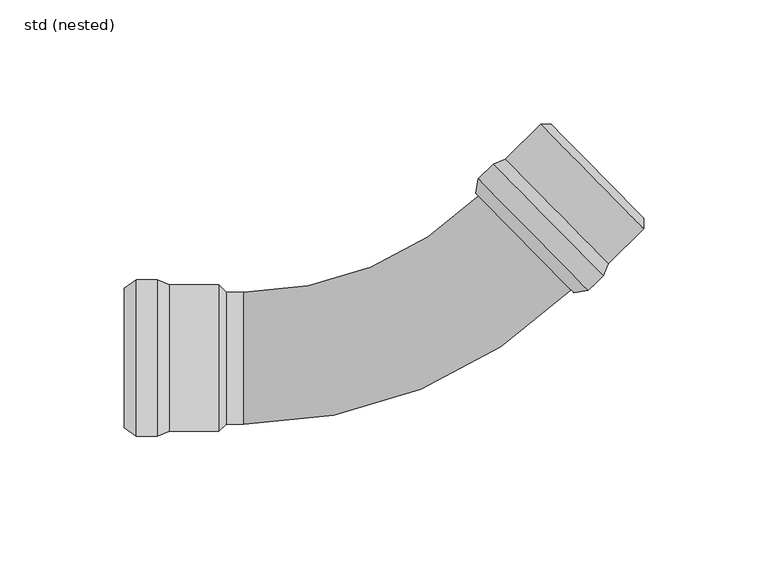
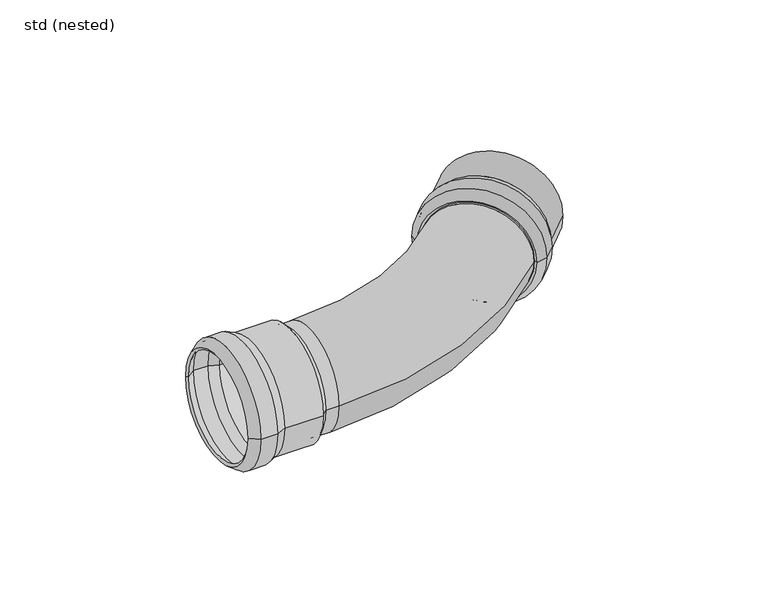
"""IFC4 building model written with IfcOpenShell, lengths in millimetres: pipe fitting geometry, ZZZ_do not use_PIF_ST_UN_GM-X pipe bend_ACO : std (nested)."""

import ifcopenshell
import ifcopenshell.guid

model = None  # the IFC model being written
_history = None  # IfcOwnerHistory: only IFC2X3 demands one
_inside = {}  # id of a spatial element -> (the spatial element, [elements in it])
_under = {}  # id of a project, library or spatial element -> (it, [spatial elements below it])
_declared = {}  # id of a project -> (the project, [libraries it declares])
_typed = {}  # id of a type object -> (the type object, [elements of that type])
_made_of = {}  # id of a material, layer set ... -> (it, [elements and type objects made of it])


def new_model(schema):
    """Start an empty IFC model of exactly this schema.

    Asked for "IFC4X3", IfcOpenShell would pick the latest addendum, in which some entities
    have other attributes; the version numbers below select the first issue.
    IFC2X3 requires an IfcOwnerHistory on every rooted entity: one is made here for all.
    """
    global model, _history
    if schema == "IFC4X3":
        model = ifcopenshell.file(schema_version=(4, 3, 0, 0))
    else:
        model = ifcopenshell.file(schema=schema)
    _inside.clear()
    _under.clear()
    _declared.clear()
    _typed.clear()
    _made_of.clear()
    _history = None
    if model.schema == "IFC2X3":
        org = make("IfcOrganization", Name="unknown")
        user = make(
            "IfcPersonAndOrganization",
            ThePerson=make("IfcPerson", FamilyName="unknown"),
            TheOrganization=org,
        )
        app = make(
            "IfcApplication",
            ApplicationDeveloper=org,
            Version="unknown",
            ApplicationFullName="unknown",
            ApplicationIdentifier="unknown",
        )
        _history = make(
            "IfcOwnerHistory",
            OwningUser=user,
            OwningApplication=app,
            ChangeAction="ADDED",
            CreationDate=0,
        )
    return model


def make(cls, **values):
    """One entity of the class cls with the attributes given. An attribute that is None is left unset."""
    return model.create_entity(
        cls, **{name: value for name, value in values.items() if value is not None}
    )


def rooted(cls, **values):
    """An entity with a GlobalId (a new one), such as an element, a storey or a relation."""
    return make(cls, GlobalId=ifcopenshell.guid.new(), OwnerHistory=_history, **values)


def si_unit(unit_type, name, prefix=None):
    """IfcSIUnit, for example si_unit("LENGTHUNIT", "METRE", prefix="MILLI")."""
    return make("IfcSIUnit", UnitType=unit_type, Prefix=prefix, Name=name)


def assignment(units):
    """IfcUnitAssignment: the units of a project."""
    return None if units is None else make("IfcUnitAssignment", Units=units)


def point(xyz):
    """IfcCartesianPoint."""
    return None if xyz is None else make("IfcCartesianPoint", Coordinates=xyz)


def direction(xyz):
    """IfcDirection."""
    return None if xyz is None else make("IfcDirection", DirectionRatios=xyz)


def frame(location, z_axis=None, x_axis=None):
    """IfcAxis2Placement3D, a coordinate frame: its origin and axes. An axis left out is left unset."""
    return make(
        "IfcAxis2Placement3D",
        Location=point(location),
        Axis=direction(z_axis),
        RefDirection=direction(x_axis),
    )


def origin():
    """The frame at (0, 0, 0) with its axes left unset."""
    return frame((0.0, 0.0, 0.0))


def place(relative_to, where):
    """IfcLocalPlacement: puts the frame where relative to a parent placement (None: the world)."""
    return make(
        "IfcLocalPlacement", PlacementRelTo=relative_to, RelativePlacement=where
    )


def context(
    kind, dimensions, precision=None, world=None, true_north=None, identifier=None
):
    """IfcGeometricRepresentationContext, for example the 3D "Model" context."""
    return make(
        "IfcGeometricRepresentationContext",
        ContextIdentifier=identifier,
        ContextType=kind,
        CoordinateSpaceDimension=dimensions,
        Precision=precision,
        WorldCoordinateSystem=world,
        TrueNorth=true_north,
    )


def project(units=None, contexts=None):
    """IfcProject with its units and contexts."""
    return rooted(
        "IfcProject",
        Name="project",
        RepresentationContexts=contexts,
        UnitsInContext=assignment(units),
    )


def spatial(cls, under=None, at=None, **own):
    """A site, building, storey or space (cls), placed at a placement, below another one or the project."""
    s = rooted(cls, ObjectPlacement=at, **own)
    if under is not None:
        _under.setdefault(under.id(), (under, []))[1].append(s)
    return s


def polyline(points):
    """IfcPolyline through the points."""
    return make("IfcPolyline", Points=[point(p) for p in points])


def circle_curve(where, radius):
    """IfcCircle in the frame where."""
    return make("IfcCircle", Position=where, Radius=radius)


def ellipse_curve(where, semi_axis1, semi_axis2):
    """IfcEllipse in the frame where."""
    return make(
        "IfcEllipse", Position=where, SemiAxis1=semi_axis1, SemiAxis2=semi_axis2
    )


def trimmed(basis, trim1, trim2, sense, master):
    """IfcTrimmedCurve: the piece of a basis curve between two trims."""
    return make(
        "IfcTrimmedCurve",
        BasisCurve=basis,
        Trim1=trim1,
        Trim2=trim2,
        SenseAgreement=sense,
        MasterRepresentation=master,
    )


def shape(context_of_items, identifier, shape_type, items):
    """IfcShapeRepresentation: the items that make up one representation, for example the "Body"."""
    return make(
        "IfcShapeRepresentation",
        ContextOfItems=context_of_items,
        RepresentationIdentifier=identifier,
        RepresentationType=shape_type,
        Items=items,
    )


def source(mapping_origin, context_of_items, identifier, shape_type, items):
    """IfcRepresentationMap: a shape defined once, which mapped items show again and again."""
    return make(
        "IfcRepresentationMap",
        MappingOrigin=mapping_origin,
        MappedRepresentation=shape(context_of_items, identifier, shape_type, items),
    )


def transform(
    local_origin,
    x_axis=None,
    y_axis=None,
    z_axis=None,
    scale=None,
    scale2=None,
    scale3=None,
    uniform=True,
):
    """IfcCartesianTransformationOperator3D, or its non-uniform kind. x_axis, y_axis, z_axis: its Axis1, 2, 3."""
    if uniform:
        return make(
            "IfcCartesianTransformationOperator3D",
            Axis1=direction(x_axis),
            Axis2=direction(y_axis),
            LocalOrigin=point(local_origin),
            Scale=scale,
            Axis3=direction(z_axis),
        )
    return make(
        "IfcCartesianTransformationOperator3DnonUniform",
        Axis1=direction(x_axis),
        Axis2=direction(y_axis),
        LocalOrigin=point(local_origin),
        Scale=scale,
        Axis3=direction(z_axis),
        Scale2=scale2,
        Scale3=scale3,
    )


def mapped(mapping_source, mapping_target):
    """IfcMappedItem: shows the shape of a source again, moved by a transform."""
    return make(
        "IfcMappedItem", MappingSource=mapping_source, MappingTarget=mapping_target
    )


def made_of(thing, what):
    """Note that an element or type object is made of a material, layer set ...; save() writes the relation."""
    if what is not None:
        _made_of.setdefault(what.id(), (what, []))[1].append(thing)
    return thing


def element(
    cls,
    number,
    at=None,
    inside=None,
    cuts=None,
    type_object=None,
    material=None,
    context=None,
    identifier="Body",
    shape_type=None,
    held_by="IfcProductDefinitionShape",
    body=None,
    shapes=None,
    **own,
):
    """One element of the class cls, such as IfcWall. Its Tag is "e" and its number.

    at: its placement. inside: the storey or other place that contains it. cuts: it is an
    opening in that element (IfcRelVoidsElement). A single representation is given by context,
    identifier, shape_type and body (its items); several are given by shapes. held_by: the class
    of the entity that holds the representations. save() writes the other relations.
    """
    e = rooted(cls, Tag="e%d" % number, ObjectPlacement=at, **own)
    if body is not None:
        shapes = [shape(context, identifier, shape_type, body)]
    if shapes is not None:
        e.Representation = make(held_by, Representations=shapes)
    if inside is not None:
        _inside.setdefault(inside.id(), (inside, []))[1].append(e)
    if cuts is not None:
        rooted(
            "IfcRelVoidsElement", RelatingBuildingElement=cuts, RelatedOpeningElement=e
        )
    if type_object is not None:
        _typed.setdefault(type_object.id(), (type_object, []))[1].append(e)
    return made_of(e, material)


def aggregate(whole, parts):
    """IfcRelAggregates: a whole, such as a stair, and the parts it consists of."""
    return rooted("IfcRelAggregates", RelatingObject=whole, RelatedObjects=parts)


def save(model, path):
    """Write the relations noted so far, then the file.

    IfcRelAggregates (storeys below a building ...), IfcRelContainedInSpatialStructure (elements
    in a storey), IfcRelDefinesByType, IfcRelAssociatesMaterial and IfcRelDeclares: one each for
    every whole, place, type object, material and project.
    """
    for whole, parts in _under.values():
        aggregate(whole, parts)
    for where, things in _inside.values():
        rooted(
            "IfcRelContainedInSpatialStructure",
            RelatedElements=things,
            RelatingStructure=where,
        )
    for kind, things in _typed.values():
        rooted("IfcRelDefinesByType", RelatedObjects=things, RelatingType=kind)
    for what, things in _made_of.values():
        rooted("IfcRelAssociatesMaterial", RelatedObjects=things, RelatingMaterial=what)
    for by, libraries in _declared.values():
        rooted("IfcRelDeclares", RelatingContext=by, RelatedDefinitions=libraries)
    model.write(path)


def plane_surface(at):
    """IfcPlane: the flat surface through the origin of the frame at, square to its z axis."""
    return make("IfcPlane", Position=at)


def cylinder_surface(at, radius):
    """IfcCylindricalSurface: all points at the distance radius from the z axis of the frame at."""
    return make("IfcCylindricalSurface", Position=at, Radius=radius)


def revolved_surface(curve, axis_point, axis_direction):
    """IfcSurfaceOfRevolution: the curve turned about the line through axis_point along axis_direction."""
    return make(
        "IfcSurfaceOfRevolution",
        SweptCurve=make("IfcArbitraryOpenProfileDef", ProfileType="CURVE", Curve=curve),
        AxisPosition=make("IfcAxis1Placement", Location=point(axis_point), Axis=direction(axis_direction)),
    )


def advanced_brep(points, edges, surfaces, faces):
    """IfcAdvancedBrep: a solid bounded by faces that lie on surfaces and meet in shared edges.

    An edge is (start, end): straight between two places in points (the first is 0);
    or (start, end, curve); or (start, end, curve, False) where it runs against its curve.
    A face is (place in surfaces, loops), or (place, loops, False) where it looks against
    its surface's normal. A loop lists edges by number (the first is 1), with a minus sign
    where the edge is run from its end to its start. The first loop is the outer one.
    """
    corners = [point(p) for p in points]
    vertices = [make("IfcVertexPoint", VertexGeometry=c) for c in corners]
    made = []
    for start, end, *more in edges:
        made.append(
            make(
                "IfcEdgeCurve",
                EdgeStart=vertices[start],
                EdgeEnd=vertices[end],
                EdgeGeometry=more[0] if more else make("IfcPolyline", Points=[corners[start], corners[end]]),
                SameSense=more[1] if len(more) > 1 else True,
            )
        )
    hull = []
    for where, loops, *sense in faces:
        bounds = []
        for j, loop in enumerate(loops):
            ring = [make("IfcOrientedEdge", EdgeElement=made[abs(k) - 1], Orientation=k > 0) for k in loop]
            bounds.append(
                make(
                    "IfcFaceOuterBound" if j == 0 else "IfcFaceBound",
                    Bound=make("IfcEdgeLoop", EdgeList=ring),
                    Orientation=True,
                )
            )
        hull.append(make("IfcAdvancedFace", Bounds=bounds, FaceSurface=surfaces[where], SameSense=sense[0] if sense else True))
    return make("IfcAdvancedBrep", Outer=make("IfcClosedShell", CfsFaces=hull))


def std_nested_f38542de(model_context):
    return source(origin(), model_context, "Body", "AdvancedBrep", [
        advanced_brep(
        [(34.3147889, 78.0216974, 0.0), (78.5273458, 33.1413029, 0.0), (72.5432932, 27.2462953, 0.0), (28.3307363, 72.1266898, 0.0), (39.1378208, 79.9654987, 0.0), (80.5432312, 37.9346531, 0.0), (66.6675814, 26.3710748, 0.0), (27.3675309, 66.2647588, 0.0), (53.3855651, 94.0012311, 0.0), (94.7909755, 51.9703854, 0.0), (57.6280866, 93.9694293, 0.0), (94.8227773, 56.2129069, 0.0), (55.4909249, 91.8640694, 0.0), (92.6856157, 54.107547, 0.0), (39.9767846, 78.6863819, 0.0), (79.2768351, 38.7926979, 0.0), (93.7382956, 53.0389662, 0.0), (54.438245, 92.9326502, 0.0), (35.1537527, 76.7425806, 0.0), (77.2609498, 33.9993477, 0.0), (29.7316328, 71.4011439, 0.0), (71.8388298, 28.657911, 0.0), (28.8476822, 66.0215471, 0.0), (66.4465862, 27.8547058, 0.0)],
        [
            (0, 1, circle_curve(frame((56.4210674, 55.5815001, 0.0), z_axis=(-0.7123872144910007, -0.7017866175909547, 0.0), x_axis=(0.7017866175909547, -0.7123872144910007, 0.0)), 31.5)),
            (1, 2),
            (2, 3, circle_curve(frame((50.4370148, 49.6864925, 0.0), z_axis=(0.7123872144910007, 0.7017866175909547, 0.0), x_axis=(0.7017866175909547, -0.7123872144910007, 0.0)), 31.5)),
            (3, 0),
            (1, 0, circle_curve(frame((56.4210674, 55.5815001, 0.0), z_axis=(-0.7123872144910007, -0.7017866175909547, 0.0), x_axis=(0.7017866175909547, -0.7123872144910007, 0.0)), 31.5)),
            (3, 2, circle_curve(frame((50.4370148, 49.6864925, 0.0), z_axis=(0.7123872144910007, 0.7017866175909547, 0.0), x_axis=(0.7017866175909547, -0.7123872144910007, 0.0)), 31.5)),
            (4, 5, circle_curve(frame((59.840526, 58.9500759, 0.0), z_axis=(-0.7123872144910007, -0.7017866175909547, 0.0), x_axis=(0.7017866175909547, -0.7123872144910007, 0.0)), 29.5)),
            (5, 1),
            (0, 4),
            (5, 4, circle_curve(frame((59.840526, 58.9500759, 0.0), z_axis=(-0.7123872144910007, -0.7017866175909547, 0.0), x_axis=(0.7017866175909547, -0.7123872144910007, 0.0)), 29.5)),
            (2, 6),
            (6, 7, circle_curve(frame((47.0175562, 46.3179168, 0.0), z_axis=(0.7123872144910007, 0.7017866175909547, 0.0), x_axis=(0.7017866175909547, -0.7123872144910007, 0.0)), 28.0)),
            (7, 3),
            (7, 6, circle_curve(frame((47.0175562, 46.3179168, 0.0), z_axis=(0.7123872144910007, 0.7017866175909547, 0.0), x_axis=(0.7017866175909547, -0.7123872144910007, 0.0)), 28.0)),
            (8, 9, circle_curve(frame((74.0882703, 72.9858082, 0.0), z_axis=(-0.7123872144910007, -0.7017866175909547, 0.0), x_axis=(0.7017866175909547, -0.7123872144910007, 0.0)), 29.5)),
            (9, 5),
            (4, 8),
            (9, 8, circle_curve(frame((74.0882703, 72.9858082, 0.0), z_axis=(-0.7123872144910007, -0.7017866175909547, 0.0), x_axis=(0.7017866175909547, -0.7123872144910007, 0.0)), 29.5)),
            (10, 11, circle_curve(frame((76.225432, 75.0911681, 0.0), z_axis=(-0.7123872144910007, -0.7017866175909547, 0.0), x_axis=(0.7017866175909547, -0.7123872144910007, 0.0)), 26.5)),
            (11, 9),
            (8, 10),
            (11, 10, circle_curve(frame((76.225432, 75.0911681, 0.0), z_axis=(-0.7123872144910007, -0.7017866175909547, 0.0), x_axis=(0.7017866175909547, -0.7123872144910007, 0.0)), 26.5)),
            (12, 13, circle_curve(frame((74.0882703, 72.9858082, 0.0), z_axis=(-0.7123872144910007, -0.7017866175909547, 0.0), x_axis=(0.7017866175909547, -0.7123872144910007, 0.0)), 26.5)),
            (13, 11),
            (10, 12),
            (13, 12, circle_curve(frame((74.0882703, 72.9858082, 0.0), z_axis=(-0.7123872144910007, -0.7017866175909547, 0.0), x_axis=(0.7017866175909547, -0.7123872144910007, 0.0)), 26.5)),
            (14, 15, circle_curve(frame((59.6268099, 58.7395399, 0.0), z_axis=(-0.7123872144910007, -0.7017866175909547, 0.0), x_axis=(0.7017866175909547, -0.7123872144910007, 0.0)), 28.0)),
            (15, 16),
            (16, 17, circle_curve(frame((74.0882703, 72.9858082, 0.0), z_axis=(0.7123872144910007, 0.7017866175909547, 0.0), x_axis=(0.7017866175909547, -0.7123872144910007, 0.0)), 28.0)),
            (17, 14),
            (15, 14, circle_curve(frame((59.6268099, 58.7395399, 0.0), z_axis=(-0.7123872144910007, -0.7017866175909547, 0.0), x_axis=(0.7017866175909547, -0.7123872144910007, 0.0)), 28.0)),
            (17, 16, circle_curve(frame((74.0882703, 72.9858082, 0.0), z_axis=(0.7123872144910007, 0.7017866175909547, 0.0), x_axis=(0.7017866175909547, -0.7123872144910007, 0.0)), 28.0)),
            (18, 19, circle_curve(frame((56.2073512, 55.3709641, 0.0), z_axis=(-0.7123872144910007, -0.7017866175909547, 0.0), x_axis=(0.7017866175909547, -0.7123872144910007, 0.0)), 30.0)),
            (19, 15),
            (14, 18),
            (19, 18, circle_curve(frame((56.2073512, 55.3709641, 0.0), z_axis=(-0.7123872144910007, -0.7017866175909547, 0.0), x_axis=(0.7017866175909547, -0.7123872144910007, 0.0)), 30.0)),
            (20, 21, circle_curve(frame((50.7852313, 50.0295274, 0.0), z_axis=(-0.7123872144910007, -0.7017866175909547, 0.0), x_axis=(0.7017866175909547, -0.7123872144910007, 0.0)), 30.0)),
            (21, 19),
            (18, 20),
            (21, 20, circle_curve(frame((50.7852313, 50.0295274, 0.0), z_axis=(-0.7123872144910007, -0.7017866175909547, 0.0), x_axis=(0.7017866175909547, -0.7123872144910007, 0.0)), 30.0)),
            (22, 23, circle_curve(frame((47.6471342, 46.9381265, 0.0), z_axis=(-0.7123872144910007, -0.7017866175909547, 0.0), x_axis=(0.7017866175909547, -0.7123872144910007, 0.0)), 26.7879887)),
            (23, 21),
            (20, 22),
            (23, 22, circle_curve(frame((47.6471342, 46.9381265, 0.0), z_axis=(-0.7123872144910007, -0.7017866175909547, 0.0), x_axis=(0.7017866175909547, -0.7123872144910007, 0.0)), 26.7879887)),
            (6, 23),
            (22, 7),
            (16, 13),
            (12, 17),
        ],
        [
            cylinder_surface(frame((49.4080344, 48.6728237, 0.0), z_axis=(0.7123872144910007, 0.7017866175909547, 0.0), x_axis=(0.7017866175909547, -0.7123872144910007, 0.0)), 31.5),
            revolved_surface(polyline([(78.5273458, 33.1413029, 0.0), (80.5432312, 37.9346531, 0.0)]), (49.4080344, 48.6728237, 0.0), (0.7123872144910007, 0.7017866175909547, 0.0)),
            revolved_surface(polyline([(66.6675814, 26.3710748, 0.0), (72.5432932, 27.2462953, 0.0)]), (49.4080344, 48.6728237, 0.0), (0.7123872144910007, 0.7017866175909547, 0.0)),
            cylinder_surface(frame((49.4080344, 48.6728237, 0.0), z_axis=(0.7123872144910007, 0.7017866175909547, 0.0), x_axis=(0.7017866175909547, -0.7123872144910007, 0.0)), 29.5),
            revolved_surface(polyline([(94.7909755, 51.9703854, 0.0), (94.8227773, 56.2129069, 0.0)]), (49.4080344, 48.6728237, 0.0), (0.7123872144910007, 0.7017866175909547, 0.0)),
            revolved_surface(polyline([(94.82277738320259, 56.21290689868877, 0.0), (92.68561567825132, 54.10754698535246, 0.0)]), (49.4080344, 48.6728237, 0.0), (0.7123872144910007, 0.7017866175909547, 0.0)),
            revolved_surface(polyline([(93.73829562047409, 53.038966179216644, 0.0), (79.276835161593, 38.79269783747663, 0.0)]), (49.4080344, 48.6728237, 0.0), (0.7123872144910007, 0.7017866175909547, 0.0)),
            revolved_surface(polyline([(79.2768351, 38.7926979, 0.0), (77.2609498, 33.9993477, 0.0)]), (49.4080344, 48.6728237, 0.0), (0.7123872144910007, 0.7017866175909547, 0.0)),
            revolved_surface(polyline([(77.26094981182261, 33.99934768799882, 0.0), (71.8388298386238, 28.657910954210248, 0.0)]), (49.4080344, 48.6728237, 0.0), (0.7123872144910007, 0.7017866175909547, 0.0)),
            revolved_surface(polyline([(71.8388298, 28.657911, 0.0), (66.4465862, 27.8547058, 0.0)]), (49.4080344, 48.6728237, 0.0), (0.7123872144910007, 0.7017866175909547, 0.0)),
            revolved_surface(polyline([(66.4465862, 27.8547058, 0.0), (66.6675814, 26.3710748, 0.0)]), (49.4080344, 48.6728237, 0.0), (0.7123872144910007, 0.7017866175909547, 0.0)),
            plane_surface(frame((74.0882703, 72.9858082, 0.0), z_axis=(-0.7123872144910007, -0.7017866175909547, 0.0), x_axis=(0.7017866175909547, -0.7123872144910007, 0.0))),
        ],
        [
            (0, [[1, 2, 3, 4]]),
            (0, [[5, -4, 6, -2]]),
            (1, [[7, 8, -1, 9]]),
            (1, [[10, -9, -5, -8]]),
            (2, [[-3, 11, 12, 13]]),
            (2, [[-6, -13, 14, -11]]),
            (3, [[15, 16, -7, 17]]),
            (3, [[18, -17, -10, -16]]),
            (4, [[19, 20, -15, 21]]),
            (4, [[22, -21, -18, -20]]),
            (5, [[23, 24, -19, 25]]),
            (5, [[26, -25, -22, -24]]),
            (6, [[27, 28, 29, 30]]),
            (6, [[31, -30, 32, -28]]),
            (7, [[33, 34, -27, 35]]),
            (7, [[36, -35, -31, -34]]),
            (8, [[37, 38, -33, 39]]),
            (8, [[40, -39, -36, -38]]),
            (9, [[41, 42, -37, 43]]),
            (9, [[44, -43, -40, -42]]),
            (10, [[-12, 45, -41, 46]]),
            (10, [[-14, -46, -44, -45]]),
            (11, [[-29, 47, -23, 48]]),
            (11, [[-32, -48, -26, -47]]),
        ],
    ),
        advanced_brep(
        [(-100.8, 31.5, 0.0), (-100.8, -31.5, 0.0), (-109.2, -31.5, 0.0), (-109.2, 31.5, 0.0), (-96.0, 29.5, 0.0), (-96.0, -29.5, 0.0), (-114.0, -28.0, 0.0), (-114.0, 28.0, 0.0), (-76.0, 29.5, 0.0), (-76.0, -29.5, 0.0), (-73.0, 26.5, 0.0), (-73.0, -26.5, 0.0), (-76.0, 26.5, 0.0), (-76.0, -26.5, 0.0), (-96.3, 28.0, 0.0), (-96.3, -28.0, 0.0), (-76.0, -28.0, 0.0), (-76.0, 28.0, 0.0), (-101.1, 30.0, 0.0), (-101.1, -30.0, 0.0), (-108.7111977, 30.0, 0.0), (-108.7111977, -30.0, 0.0), (-113.1162418, 26.7879887, 0.0), (-113.1162418, -26.7879887, 0.0)],
        [
            (0, 1, circle_curve(frame((-100.8, 0.0, 0.0), z_axis=(-1.0, 0.0, 0.0), x_axis=(0.0, -1.0, 0.0)), 31.5)),
            (1, 2),
            (2, 3, circle_curve(frame((-109.2, 0.0, 0.0), z_axis=(1.0, 0.0, 0.0), x_axis=(0.0, -1.0, 0.0)), 31.5)),
            (3, 0),
            (1, 0, circle_curve(frame((-100.8, 0.0, 0.0), z_axis=(-1.0, 0.0, 0.0), x_axis=(0.0, -1.0, 0.0)), 31.5)),
            (3, 2, circle_curve(frame((-109.2, 0.0, 0.0), z_axis=(1.0, 0.0, 0.0), x_axis=(0.0, -1.0, 0.0)), 31.5)),
            (4, 5, circle_curve(frame((-96.0, 0.0, 0.0), z_axis=(-1.0, 0.0, 0.0), x_axis=(0.0, -1.0, 0.0)), 29.5)),
            (5, 1),
            (0, 4),
            (5, 4, circle_curve(frame((-96.0, 0.0, 0.0), z_axis=(-1.0, 0.0, 0.0), x_axis=(0.0, -1.0, 0.0)), 29.5)),
            (2, 6),
            (6, 7, circle_curve(frame((-114.0, 0.0, 0.0), z_axis=(1.0, 0.0, 0.0), x_axis=(0.0, -1.0, 0.0)), 28.0)),
            (7, 3),
            (7, 6, circle_curve(frame((-114.0, 0.0, 0.0), z_axis=(1.0, 0.0, 0.0), x_axis=(0.0, -1.0, 0.0)), 28.0)),
            (8, 9, circle_curve(frame((-76.0, 0.0, 0.0), z_axis=(-1.0, 0.0, 0.0), x_axis=(0.0, -1.0, 0.0)), 29.5)),
            (9, 5),
            (4, 8),
            (9, 8, circle_curve(frame((-76.0, 0.0, 0.0), z_axis=(-1.0, 0.0, 0.0), x_axis=(0.0, -1.0, 0.0)), 29.5)),
            (10, 11, circle_curve(frame((-73.0, 0.0, 0.0), z_axis=(-1.0, 0.0, 0.0), x_axis=(0.0, -1.0, 0.0)), 26.5)),
            (11, 9),
            (8, 10),
            (11, 10, circle_curve(frame((-73.0, 0.0, 0.0), z_axis=(-1.0, 0.0, 0.0), x_axis=(0.0, -1.0, 0.0)), 26.5)),
            (12, 13, circle_curve(frame((-76.0, 0.0, 0.0), z_axis=(-1.0, 0.0, 0.0), x_axis=(0.0, -1.0, 0.0)), 26.5)),
            (13, 11),
            (10, 12),
            (13, 12, circle_curve(frame((-76.0, 0.0, 0.0), z_axis=(-1.0, 0.0, 0.0), x_axis=(0.0, -1.0, 0.0)), 26.5)),
            (14, 15, circle_curve(frame((-96.3, 0.0, 0.0), z_axis=(-1.0, 0.0, 0.0), x_axis=(0.0, -1.0, 0.0)), 28.0)),
            (15, 16),
            (16, 17, circle_curve(frame((-76.0, 0.0, 0.0), z_axis=(1.0, 0.0, 0.0), x_axis=(0.0, -1.0, 0.0)), 28.0)),
            (17, 14),
            (15, 14, circle_curve(frame((-96.3, 0.0, 0.0), z_axis=(-1.0, 0.0, 0.0), x_axis=(0.0, -1.0, 0.0)), 28.0)),
            (17, 16, circle_curve(frame((-76.0, 0.0, 0.0), z_axis=(1.0, 0.0, 0.0), x_axis=(0.0, -1.0, 0.0)), 28.0)),
            (18, 19, circle_curve(frame((-101.1, 0.0, 0.0), z_axis=(-1.0, 0.0, 0.0), x_axis=(0.0, -1.0, 0.0)), 30.0)),
            (19, 15),
            (14, 18),
            (19, 18, circle_curve(frame((-101.1, 0.0, 0.0), z_axis=(-1.0, 0.0, 0.0), x_axis=(0.0, -1.0, 0.0)), 30.0)),
            (20, 21, circle_curve(frame((-108.7111977, 0.0, 0.0), z_axis=(-1.0, 0.0, 0.0), x_axis=(0.0, -1.0, 0.0)), 30.0)),
            (21, 19),
            (18, 20),
            (21, 20, circle_curve(frame((-108.7111977, 0.0, 0.0), z_axis=(-1.0, 0.0, 0.0), x_axis=(0.0, -1.0, 0.0)), 30.0)),
            (22, 23, circle_curve(frame((-113.1162418, 0.0, 0.0), z_axis=(-1.0, 0.0, 0.0), x_axis=(0.0, -1.0, 0.0)), 26.7879887)),
            (23, 21),
            (20, 22),
            (23, 22, circle_curve(frame((-113.1162418, 0.0, 0.0), z_axis=(-1.0, 0.0, 0.0), x_axis=(0.0, -1.0, 0.0)), 26.7879887)),
            (6, 23),
            (22, 7),
            (16, 13),
            (12, 17),
        ],
        [
            cylinder_surface(frame((-110.6444117, 0.0, 0.0), z_axis=(1.0, 0.0, 0.0), x_axis=(0.0, -1.0, 0.0)), 31.5),
            revolved_surface(polyline([(-100.8, -31.5, 0.0), (-96.0, -29.5, 0.0)]), (-110.6444117, 0.0, 0.0), (1.0, 0.0, 0.0)),
            revolved_surface(polyline([(-114.0, -28.0, 0.0), (-109.2, -31.5, 0.0)]), (-110.6444117, 0.0, 0.0), (1.0, 0.0, 0.0)),
            cylinder_surface(frame((-110.6444117, 0.0, 0.0), z_axis=(1.0, 0.0, 0.0), x_axis=(0.0, -1.0, 0.0)), 29.5),
            revolved_surface(polyline([(-76.0, -29.5, 0.0), (-73.0, -26.5, 0.0)]), (-110.6444117, 0.0, 0.0), (1.0, 0.0, 0.0)),
            revolved_surface(polyline([(-73.0, -26.5, 0.0), (-76.0, -26.5, 0.0)]), (-110.6444117, 0.0, 0.0), (1.0, 0.0, 0.0)),
            revolved_surface(polyline([(-76.0, -28.0, 0.0), (-96.3, -28.0, 0.0)]), (-110.6444117, 0.0, 0.0), (1.0, 0.0, 0.0)),
            revolved_surface(polyline([(-96.3, -28.0, 0.0), (-101.1, -30.0, 0.0)]), (-110.6444117, 0.0, 0.0), (1.0, 0.0, 0.0)),
            revolved_surface(polyline([(-101.1, -30.0, 0.0), (-108.7111977, -30.0, 0.0)]), (-110.6444117, 0.0, 0.0), (1.0, 0.0, 0.0)),
            revolved_surface(polyline([(-108.7111977, -30.0, 0.0), (-113.1162418, -26.7879887, 0.0)]), (-110.6444117, 0.0, 0.0), (1.0, 0.0, 0.0)),
            revolved_surface(polyline([(-113.1162418, -26.7879887, 0.0), (-114.0, -28.0, 0.0)]), (-110.6444117, 0.0, 0.0), (1.0, 0.0, 0.0)),
            plane_surface(frame((-76.0, 0.0, 0.0), z_axis=(-1.0, 0.0, 0.0), x_axis=(0.0, -1.0, 0.0))),
        ],
        [
            (0, [[1, 2, 3, 4]]),
            (0, [[5, -4, 6, -2]]),
            (1, [[7, 8, -1, 9]]),
            (1, [[10, -9, -5, -8]]),
            (2, [[-3, 11, 12, 13]]),
            (2, [[-6, -13, 14, -11]]),
            (3, [[15, 16, -7, 17]]),
            (3, [[18, -17, -10, -16]]),
            (4, [[19, 20, -15, 21]]),
            (4, [[22, -21, -18, -20]]),
            (5, [[23, 24, -19, 25]]),
            (5, [[26, -25, -22, -24]]),
            (6, [[27, 28, 29, 30]]),
            (6, [[31, -30, 32, -28]]),
            (7, [[33, 34, -27, 35]]),
            (7, [[36, -35, -31, -34]]),
            (8, [[37, 38, -33, 39]]),
            (8, [[40, -39, -36, -38]]),
            (9, [[41, 42, -37, 43]]),
            (9, [[44, -43, -40, -42]]),
            (10, [[-12, 45, -41, 46]]),
            (10, [[-14, -46, -44, -45]]),
            (11, [[-29, 47, -23, 48]]),
            (11, [[-32, -48, -26, -47]]),
        ],
    ),
        advanced_brep(
        [(28.4202108, 65.1961779, 0.0), (-66.0, 26.5, 0.0), (-66.0, -26.5, 0.0), (65.6149015, 27.4396556, 0.0), (47.0175562, 46.3179168, 26.5), (47.0175562, 46.3179168, -26.5), (-76.0, -26.5, 0.0), (-76.0, 26.5, 0.0), (92.6856157, 54.107547, 0.0), (55.4909249, 91.8640694, 0.0)],
        [
            (0, 1, circle_curve(frame((-66.0, 161.0426208, 0.0), z_axis=(0.0, 0.0, -1.0), x_axis=(0.0, -1.0, 0.0)), 134.5426208)),
            (1, 2, circle_curve(frame((-66.0, 0.0, 0.0), z_axis=(1.0, 0.0, 0.0), x_axis=(0.0, 1.0, 0.0)), 26.5)),
            (2, 3, circle_curve(frame((-66.0, 161.0426208, 0.0), z_axis=(0.0, 0.0, 1.0), x_axis=(0.0, -1.0, 0.0)), 187.5426208)),
            (3, 4, circle_curve(frame((47.0175562, 46.3179168, 0.0), z_axis=(-0.7123872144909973, -0.7017866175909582, 0.0), x_axis=(-0.7017866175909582, 0.7123872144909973, 0.0)), 26.5)),
            (4, 0, circle_curve(frame((47.0175562, 46.3179168, 0.0), z_axis=(-0.7123872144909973, -0.7017866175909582, 0.0), x_axis=(-0.7017866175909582, 0.7123872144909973, 0.0)), 26.5)),
            (0, 5, circle_curve(frame((47.0175562, 46.3179168, 0.0), z_axis=(-0.7123872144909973, -0.7017866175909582, 0.0), x_axis=(-0.7017866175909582, 0.7123872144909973, 0.0)), 26.5)),
            (5, 3, circle_curve(frame((47.0175562, 46.3179168, 0.0), z_axis=(-0.7123872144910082, -0.7017866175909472, 0.0), x_axis=(-0.7017866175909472, 0.7123872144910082, 0.0)), 26.5)),
            (2, 1, circle_curve(frame((-66.0, 0.0, 0.0), z_axis=(1.0, 0.0, 0.0), x_axis=(0.0, 1.0, 0.0)), 26.5)),
            (6, 7, circle_curve(frame((-76.0, 0.0, 0.0), z_axis=(-1.0, 0.0, 0.0), x_axis=(0.0, 1.0, 0.0)), 26.5)),
            (7, 6, circle_curve(frame((-76.0, 0.0, 0.0), z_axis=(-1.0, 0.0, 0.0), x_axis=(0.0, 1.0, 0.0)), 26.5)),
            (7, 1),
            (2, 6),
            (8, 9, circle_curve(frame((74.0882703, 72.9858082, 0.0), z_axis=(0.7123872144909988, 0.7017866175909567, 0.0), x_axis=(-0.7017866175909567, 0.7123872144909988, 0.0)), 26.5)),
            (9, 8, circle_curve(frame((74.0882703, 72.9858082, 0.0), z_axis=(0.7123872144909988, 0.7017866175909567, 0.0), x_axis=(-0.7017866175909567, 0.7123872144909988, 0.0)), 26.5)),
            (9, 0),
            (3, 8),
        ],
        [
            revolved_surface(trimmed(ellipse_curve(frame((-66.0, 0.0, 0.0), z_axis=(-1.0, 0.0, 0.0), x_axis=(0.0, 1.0, 0.0)), 26.5, 26.5), [point((-66.0, -26.5, 0.0))], [point((-66.0, 26.5, 0.0))], True, "CARTESIAN"), (-66.0, 161.0426208, 0.0), (0.0, 0.0, 1.0)),
            revolved_surface(trimmed(ellipse_curve(frame((-66.0, 0.0, 0.0), z_axis=(-1.0, 0.0, 0.0), x_axis=(0.0, 1.0, 0.0)), 26.5, 26.5), [point((-66.0, 26.5, 0.0))], [point((-66.0, -26.5, 0.0))], True, "CARTESIAN"), (-66.0, 161.0426208, 0.0), (0.0, 0.0, 1.0)),
            plane_surface(frame((-76.0, 26.5, 0.0), z_axis=(-1.0, 0.0, 0.0), x_axis=(0.0, 0.0, -1.0))),
            cylinder_surface(frame((-76.0, 0.0, 0.0), z_axis=(1.0, 0.0, 0.0), x_axis=(0.0, 1.0, 0.0)), 26.5),
            plane_surface(frame((74.0882703, 72.9858082, 0.0), z_axis=(0.7123872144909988, 0.7017866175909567, 0.0), x_axis=(0.0, 0.0, 1.0))),
            cylinder_surface(frame((47.0175562, 46.3179168, 0.0), z_axis=(-0.7123872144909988, -0.7017866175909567, 0.0), x_axis=(-0.7017866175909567, 0.7123872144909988, 0.0)), 26.5),
        ],
        [
            (0, [[1, 2, 3, 4, 5]]),
            (1, [[-1, 6, 7, -3, 8]]),
            (2, [[9, 10]]),
            (3, [[-10, 11, -8, 12]]),
            (3, [[-9, -12, -2, -11]]),
            (4, [[13, 14]]),
            (5, [[-14, 15, -5, -4, 16]]),
            (5, [[-13, -16, -7, -6, -15]]),
        ],
    ),
    ])


if __name__ == "__main__":
    model = new_model("IFC4")
    model_context = context("Model", 3, world=origin())
    ifc_project = project(units=[si_unit("LENGTHUNIT", "METRE", prefix="MILLI")], contexts=[model_context])
    site = spatial("IfcSite", under=ifc_project)
    building = spatial("IfcBuilding", under=site)
    placement = place(None, origin())
    std_nested_shape = std_nested_f38542de(model_context)
    element("IfcPipeFitting", 1, ObjectType="ZZZ_do not use_PIF_ST_UN_GM-X pipe bend_ACO : std (nested)", at=placement, inside=building, context=model_context, shape_type="MappedRepresentation", body=[
        mapped(std_nested_shape, transform((0.0, 0.0, 0.0), x_axis=(1.0, 0.0, 0.0), y_axis=(0.0, 1.0, 0.0), z_axis=(0.0, 0.0, 1.0))),
    ])
    save(model, "model.ifc")
